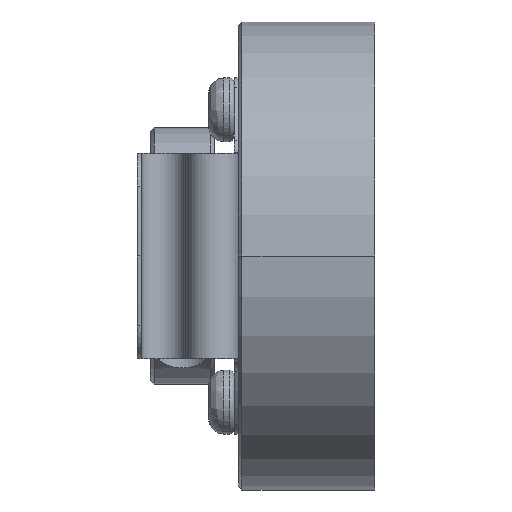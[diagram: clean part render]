
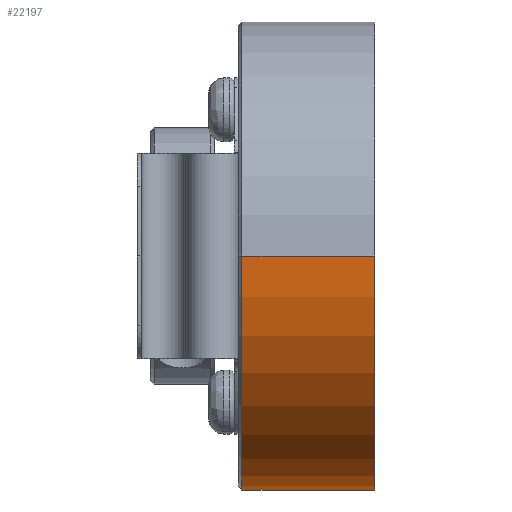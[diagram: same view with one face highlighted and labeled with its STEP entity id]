
A CAD part, front view. The second image highlights one B-rep face of the part: STEP entity #22197.
In plain terms, the highlighted cylindrical face has radius 18.25 mm (diameter 36.5 mm), a partial arc.
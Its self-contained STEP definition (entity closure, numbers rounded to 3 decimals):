
#171 = VERTEX_POINT ( 'NONE', #20430 ) ;
#514 = CARTESIAN_POINT ( 'NONE',  ( -1.3, 0., 0. ) ) ;
#830 = CIRCLE ( 'NONE', #16527, 18.25 ) ;
#1134 = LINE ( 'NONE', #20031, #9151 ) ;
#1714 = CARTESIAN_POINT ( 'NONE',  ( -1000., -18.25, 0. ) ) ;
#1731 = CARTESIAN_POINT ( 'NONE',  ( -11.65, 0., 0. ) ) ;
#2465 = ORIENTED_EDGE ( 'NONE', *, *, #5176, .T. ) ;
#2564 = CYLINDRICAL_SURFACE ( 'NONE', #19067, 18.25 ) ;
#3313 = CARTESIAN_POINT ( 'NONE',  ( -1.3, 18.25, 0. ) ) ;
#3466 = DIRECTION ( 'NONE',  ( -1., 0., 0. ) ) ;
#3801 = EDGE_LOOP ( 'NONE', ( #2465, #21003, #12207, #21809 ) ) ;
#4082 = DIRECTION ( 'NONE',  ( -1., 0., 0. ) ) ;
#5176 = EDGE_CURVE ( 'NONE', #5860, #17947, #830, .T. ) ;
#5860 = VERTEX_POINT ( 'NONE', #3313 ) ;
#6369 = EDGE_CURVE ( 'NONE', #9111, #171, #6939, .T. ) ;
#6939 = CIRCLE ( 'NONE', #16604, 18.25 ) ;
#7941 = EDGE_CURVE ( 'NONE', #5860, #171, #1134, .T. ) ;
#7953 = LINE ( 'NONE', #1714, #20000 ) ;
#8341 = DIRECTION ( 'NONE',  ( 1., 0., 0. ) ) ;
#8477 = DIRECTION ( 'NONE',  ( 0., 1., 0. ) ) ;
#9060 = CARTESIAN_POINT ( 'NONE',  ( -11.65, -18.25, 0. ) ) ;
#9111 = VERTEX_POINT ( 'NONE', #9060 ) ;
#9151 = VECTOR ( 'NONE', #9724, 1000. ) ;
#9269 = DIRECTION ( 'NONE',  ( 0., 1., 0. ) ) ;
#9440 = DIRECTION ( 'NONE',  ( 0., 1., 0. ) ) ;
#9481 = CARTESIAN_POINT ( 'NONE',  ( -1.3, -18.25, 0. ) ) ;
#9595 = CARTESIAN_POINT ( 'NONE',  ( -1000., 0., 0. ) ) ;
#9724 = DIRECTION ( 'NONE',  ( -1., 0., 0. ) ) ;
#12207 = ORIENTED_EDGE ( 'NONE', *, *, #6369, .T. ) ;
#15082 = FACE_OUTER_BOUND ( 'NONE', #3801, .T. ) ;
#16527 = AXIS2_PLACEMENT_3D ( 'NONE', #514, #4082, #9269 ) ;
#16604 = AXIS2_PLACEMENT_3D ( 'NONE', #1731, #8341, #8477 ) ;
#17947 = VERTEX_POINT ( 'NONE', #9481 ) ;
#18124 = EDGE_CURVE ( 'NONE', #17947, #9111, #7953, .T. ) ;
#19067 = AXIS2_PLACEMENT_3D ( 'NONE', #9595, #21623, #9440 ) ;
#20000 = VECTOR ( 'NONE', #3466, 1000. ) ;
#20031 = CARTESIAN_POINT ( 'NONE',  ( -1000., 18.25, 0. ) ) ;
#20430 = CARTESIAN_POINT ( 'NONE',  ( -11.65, 18.25, 0. ) ) ;
#21003 = ORIENTED_EDGE ( 'NONE', *, *, #18124, .T. ) ;
#21623 = DIRECTION ( 'NONE',  ( -1., 0., 0. ) ) ;
#21809 = ORIENTED_EDGE ( 'NONE', *, *, #7941, .F. ) ;
#22197 = ADVANCED_FACE ( 'NONE', ( #15082 ), #2564, .T. ) ;
